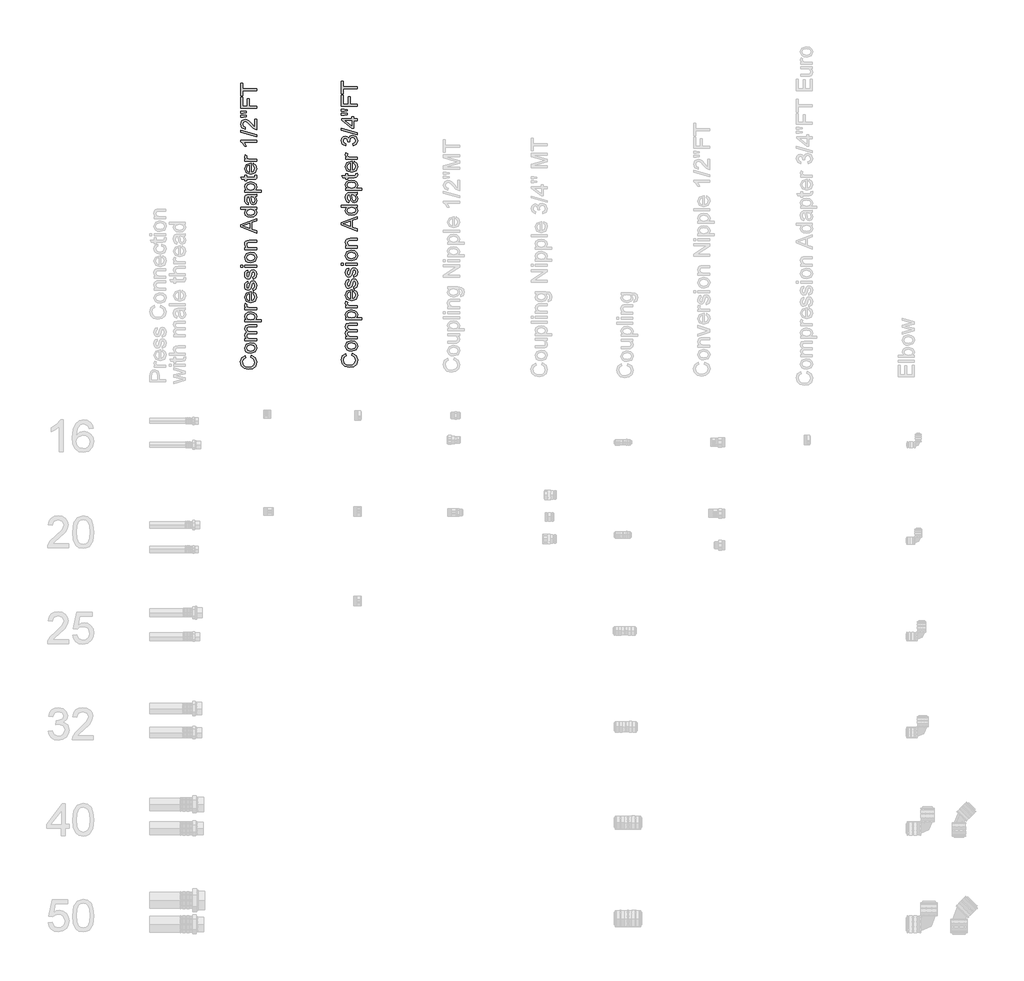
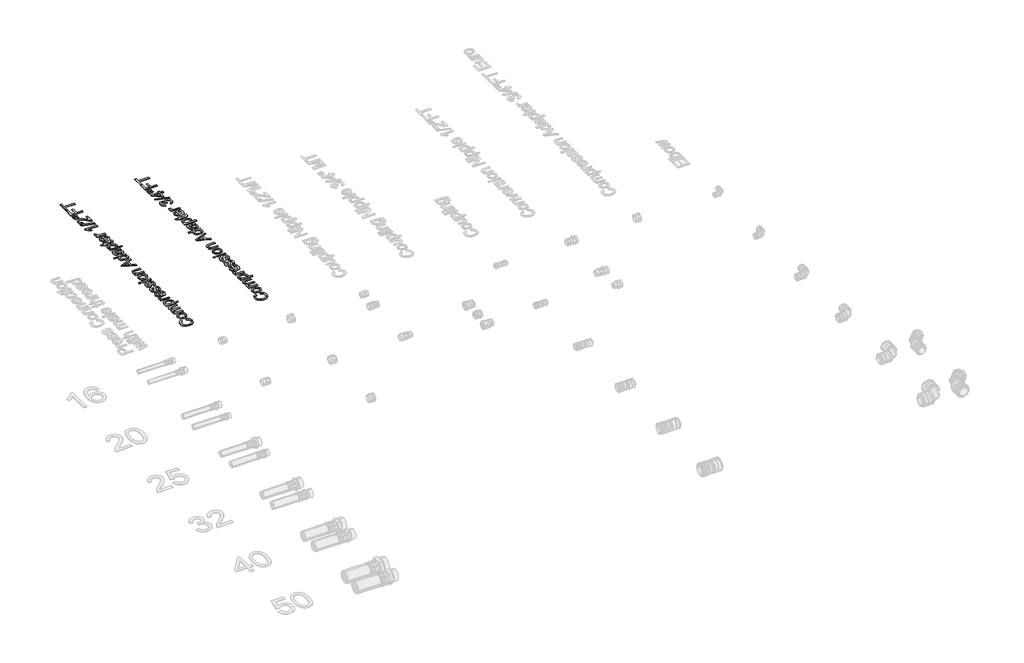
# One storey, part 23 of 26: 2 proxies.
"""IFC4 building model written with IfcOpenShell, lengths in millimetres."""

from ifc_helpers import new_model, si_unit, origin, origin_with_axes, place, context, project, spatial, polyline, outline, extrude, element, save

model = new_model("IFC4")

# Units and contexts
model_context = context("Model", 3, world=origin())
ifc_project = project(units=[si_unit("LENGTHUNIT", "METRE", prefix="MILLI")], contexts=[model_context])

# Site, building, storey
site = spatial("IfcSite", under=ifc_project)
building = spatial("IfcBuilding", under=site)
storey = spatial("IfcBuildingStorey", under=building, Name="Superpipe UFH", Elevation=0.0)

# Proxies
placement = place(None, origin())
element("IfcBuildingElementProxy", 1, Name="50mm Arial", ObjectType="50mm Arial", at=placement, inside=storey, context=model_context, shape_type="SweptSolid", body=[
    extrude(outline(polyline([(26032.5798356, 32469.7288076), (26034.1985164, 32476.007327), (26046.8597884, 32468.563848), (26051.21919, 32455.418198), (26047.9205148, 32442.3522558), (26038.3678457, 32434.6880476), (26024.9401528, 32432.0576913), (26011.2917308, 32435.0314041), (26002.4441688, 32443.4865586), (25999.4214051, 32455.5530881), (26003.333217, 32468.128521), (26014.3451514, 32475.2225121), (26015.8412048, 32468.9439927), (26008.1218143, 32463.7936448), (26005.6999245, 32455.3078334), (26008.3854631, 32445.4853842), (26015.5959502, 32439.9364974), (26024.9278901, 32438.3362107), (26035.7436208, 32440.230803), (26042.6536709, 32446.1291776), (26044.9406706, 32454.7927986), (26041.8259364, 32464.4006501), (26032.5798356, 32469.7288076)])), origin_with_axes(), (0.0, 0.0, 1.0), 2.0),
    extrude(outline(polyline([(26031.9912244, 32482.2858464), (26023.0976772, 32483.6439441), (26016.846749, 32487.7182372), (26012.7632588, 32498.7792225), (26017.7357971, 32510.6434169), (26031.4761896, 32515.2480732), (26042.6475395, 32513.2124595), (26048.9689785, 32507.283428), (26051.21919, 32498.7792225), (26046.2650458, 32486.8414518), (26031.9912244, 32482.2858464)]), holes=[polyline([(26031.9789617, 32488.5643658), (26041.7094405, 32491.4706335), (26044.9406706, 32498.7792225), (26041.6910464, 32506.063286), (26031.782758, 32508.9695538), (26022.2730084, 32506.0448919), (26019.0417782, 32498.7792225), (26022.2607456, 32491.4706335), (26031.9789617, 32488.5643658)])]), origin_with_axes(), (0.0, 0.0, 1.0), 2.0),
    extrude(outline(polyline([(26050.4343751, 32522.3114075), (26013.5480737, 32522.3114075), (26013.5480737, 32528.5899269), (26019.6181266, 32528.5899269), (26014.6455883, 32532.9064089), (26012.7632588, 32539.0500383), (26014.6823765, 32545.3408204), (26020.059585, 32548.7989111), (26014.5873404, 32553.697873), (26012.7632588, 32559.8844219), (26015.7982853, 32568.0943218), (26025.1486193, 32570.9699327), (26050.4343751, 32570.9699327), (26050.4343751, 32564.6914133), (26027.8464206, 32564.6914133), (26022.6041022, 32564.1089335), (26020.0227968, 32561.9997434), (26019.0417782, 32558.4128939), (26021.5556385, 32552.2386078), (26029.6122542, 32549.7799298), (26050.4343751, 32549.7799298), (26050.4343751, 32543.5014104), (26027.1474448, 32543.5014104), (26021.0651292, 32542.0482765), (26019.0417782, 32537.2842047), (26020.3906788, 32532.6366288), (26024.3392789, 32529.54642), (26031.8318089, 32528.5899269), (26050.4343751, 32528.5899269), (26050.4343751, 32522.3114075)])), origin_with_axes(), (0.0, 0.0, 1.0), 2.0),
    extrude(outline(polyline([(26064.5610437, 32580.3877118), (26013.5480737, 32580.3877118), (26013.5480737, 32586.6662312), (26019.7039658, 32586.6662312), (26014.4984355, 32591.0072387), (26012.7632588, 32596.8688252), (26015.19128, 32604.827339), (26022.0338851, 32610.0267379), (26031.7091816, 32611.7803087), (26041.8811187, 32609.7998773), (26048.809563, 32604.0486554), (26051.21919, 32596.1085357), (26049.6066406, 32590.6454881), (26045.5292818, 32586.6662312), (26064.5610437, 32586.6662312), (26064.5610437, 32580.3877118)]), holes=[polyline([(26032.28553, 32586.6662312), (26041.8504619, 32589.3824266), (26044.9406706, 32595.9736456), (26041.7400973, 32602.6997548), (26031.8195462, 32605.5017893), (26022.2300888, 32602.7671998), (26019.0417782, 32596.231163), (26022.4324239, 32589.5663676), (26032.28553, 32586.6662312)])]), origin_with_axes(), (0.0, 0.0, 1.0), 2.0),
    extrude(outline(polyline([(26050.4343751, 32618.843643), (26013.5480737, 32618.843643), (26013.5480737, 32624.3373475), (26019.00499, 32624.3373475), (26013.9772694, 32628.2368966), (26012.7632588, 32632.1609712), (26014.7007706, 32638.4640161), (26020.3293652, 32636.3670887), (26019.0417782, 32631.9525048), (26020.2803142, 32628.4024435), (26023.7138795, 32626.1399692), (26031.046994, 32625.1221624), (26050.4343751, 32625.1221624), (26050.4343751, 32618.843643)])), origin_with_axes(), (0.0, 0.0, 1.0), 2.0),
    extrude(outline(polyline([(26039.4469662, 32668.2134068), (26040.2317811, 32674.3692988), (26048.3374477, 32668.6119456), (26051.21919, 32657.8881854), (26046.2466517, 32644.8529001), (26032.2977927, 32640.0336459), (26017.8890813, 32644.901951), (26012.7632588, 32657.5325662), (26017.8768185, 32669.8014307), (26032.2610045, 32674.5655025), (26033.9532617, 32674.5287143), (26033.9532617, 32646.3121653), (26042.1079793, 32649.9235402), (26044.9406706, 32658.0108128), (26043.6285582, 32664.1667048), (26039.4469662, 32668.2134068)]), holes=[polyline([(26027.6747423, 32646.3121653), (26027.6747423, 32668.2869832), (26021.9848341, 32665.7731229), (26019.0417782, 32657.5080407), (26021.3900916, 32649.7763874), (26027.6747423, 32646.3121653)])]), origin_with_axes(), (0.0, 0.0, 1.0), 2.0),
    extrude(outline(polyline([(26039.4469662, 32678.4895772), (26038.6621513, 32684.7680965), (26043.3219899, 32687.6743643), (26044.9406706, 32694.3330284), (26043.4568799, 32700.7341751), (26039.9742637, 32702.8188398), (26037.1538351, 32700.7219124), (26035.363476, 32694.259452), (26032.2916614, 32684.8048847), (26028.7048119, 32680.678475), (26023.6403031, 32679.2743921), (26018.9620704, 32680.4025635), (26015.3874837, 32683.4805096), (26013.5296796, 32687.4720292), (26012.7632588, 32692.8737632), (26013.9956635, 32700.5134459), (26017.3311269, 32705.3694883), (26022.9658528, 32707.5277293), (26023.7506677, 32701.2492099), (26020.2864456, 32698.8886338), (26019.0417782, 32693.3642725), (26020.2312633, 32687.3555332), (26023.002641, 32685.5529115), (26024.8297882, 32686.3009382), (26026.2154771, 32688.6431202), (26027.552115, 32694.0509856), (26030.5074337, 32703.2664295), (26033.8551599, 32707.5461234), (26039.3120761, 32709.0973592), (26045.3208154, 32707.2763433), (26049.680217, 32702.0217621), (26051.21919, 32694.2471893), (26048.2516086, 32683.2965686), (26039.4469662, 32678.4895772)])), origin_with_axes(), (0.0, 0.0, 1.0), 2.0),
    extrude(outline(polyline([(26039.4469662, 32713.8062487), (26038.6621513, 32720.0847681), (26043.3219899, 32722.9910358), (26044.9406706, 32729.6497), (26043.4568799, 32736.0508467), (26039.9742637, 32738.1355113), (26037.1538351, 32736.0385839), (26035.363476, 32729.5761236), (26032.2916614, 32720.1215563), (26028.7048119, 32715.9951466), (26023.6403031, 32714.5910636), (26018.9620704, 32715.7192351), (26015.3874837, 32718.7971811), (26013.5296796, 32722.7887007), (26012.7632588, 32728.1904347), (26013.9956635, 32735.8301175), (26017.3311269, 32740.6861598), (26022.9658528, 32742.8444009), (26023.7506677, 32736.5658815), (26020.2864456, 32734.2053053), (26019.0417782, 32728.680944), (26020.2312633, 32722.6722048), (26023.002641, 32720.869583), (26024.8297882, 32721.6176097), (26026.2154771, 32723.9597918), (26027.552115, 32729.3676571), (26030.5074337, 32738.5831011), (26033.8551599, 32742.862795), (26039.3120761, 32744.4140307), (26045.3208154, 32742.5930148), (26049.680217, 32737.3384337), (26051.21919, 32729.5638608), (26048.2516086, 32718.6132401), (26039.4469662, 32713.8062487)])), origin_with_axes(), (0.0, 0.0, 1.0), 2.0),
    extrude(outline(polyline([(26006.4847394, 32751.477365), (26000.20622, 32751.477365), (26000.20622, 32757.7558844), (26006.4847394, 32757.7558844), (26006.4847394, 32751.477365)])), origin_with_axes(), (0.0, 0.0, 1.0), 2.0),
    extrude(outline(polyline([(26050.4343751, 32751.477365), (26013.5480737, 32751.477365), (26013.5480737, 32757.7558844), (26050.4343751, 32757.7558844), (26050.4343751, 32751.477365)])), origin_with_axes(), (0.0, 0.0, 1.0), 2.0),
    extrude(outline(polyline([(26031.9912244, 32765.6040336), (26023.0976772, 32766.9621313), (26016.846749, 32771.0364244), (26012.7632588, 32782.0974097), (26017.7357971, 32793.9616041), (26031.4761896, 32798.5662604), (26042.6475395, 32796.5306467), (26048.9689785, 32790.6016152), (26051.21919, 32782.0974097), (26046.2650458, 32770.159639), (26031.9912244, 32765.6040336)]), holes=[polyline([(26031.9789617, 32771.882553), (26041.7094405, 32774.7888208), (26044.9406706, 32782.0974097), (26041.6910464, 32789.3814732), (26031.782758, 32792.287741), (26022.2730084, 32789.3630791), (26019.0417782, 32782.0974097), (26022.2607456, 32774.7888208), (26031.9789617, 32771.882553)])]), origin_with_axes(), (0.0, 0.0, 1.0), 2.0),
    extrude(outline(polyline([(26050.4343751, 32805.6295947), (26013.5480737, 32805.6295947), (26013.5480737, 32811.9081141), (26018.6984217, 32811.9081141), (26014.2470495, 32816.7089741), (26012.7632588, 32823.263405), (26013.9588753, 32829.1924365), (26017.098135, 32833.2391384), (26021.715054, 32835.121468), (26027.7851069, 32835.4525618), (26050.4343751, 32835.4525618), (26050.4343751, 32829.1740424), (26028.6312355, 32829.1740424), (26023.0762174, 32828.4505411), (26020.1392928, 32825.8937613), (26019.0417782, 32821.5834106), (26021.5065876, 32814.7714623), (26030.863053, 32811.9081141), (26050.4343751, 32811.9081141), (26050.4343751, 32805.6295947)])), origin_with_axes(), (0.0, 0.0, 1.0), 2.0),
    extrude(outline(polyline([(26050.4343751, 32858.6413902), (26000.20622, 32878.6909589), (26000.20622, 32884.0375106), (26050.4343751, 32904.0870793), (26050.4343751, 32897.4529407), (26034.7380766, 32891.7017188), (26034.7380766, 32871.014488), (26050.4343751, 32865.2755288), (26050.4343751, 32858.6413902)]), holes=[polyline([(26028.4595573, 32873.3198818), (26028.4595573, 32889.4085877), (26016.110985, 32884.8836392), (26006.4847394, 32881.3642348), (26015.0318644, 32878.2372378), (26028.4595573, 32873.3198818)])]), origin_with_axes(), (0.0, 0.0, 1.0), 2.0),
    extrude(outline(polyline([(26050.4343751, 32932.7696122), (26044.511475, 32932.7696122), (26049.5422613, 32928.6156114), (26051.21919, 32922.8735866), (26048.7911689, 32915.0990137), (26042.0160088, 32909.6053093), (26032.0280126, 32907.6555347), (26022.0338851, 32909.4520251), (26015.1544918, 32914.835365), (26012.7632588, 32922.8490611), (26014.4739101, 32928.6370711), (26018.9191509, 32932.7696122), (26000.20622, 32932.7696122), (26000.20622, 32939.0481316), (26050.4343751, 32939.0481316), (26050.4343751, 32932.7696122)]), holes=[polyline([(26032.0034872, 32913.9340541), (26041.7217032, 32916.7667454), (26044.9406706, 32923.449935), (26041.868856, 32930.0534168), (26032.4817337, 32932.7696122), (26022.2914025, 32930.0043659), (26019.0417782, 32923.1924176), (26022.1626438, 32916.5828044), (26032.0034872, 32913.9340541)])]), origin_with_axes(), (0.0, 0.0, 1.0), 2.0),
    extrude(outline(polyline([(26045.7254856, 32972.0103584), (26049.980654, 32965.9219114), (26051.21919, 32959.1958022), (26048.2393459, 32950.0784601), (26040.6241886, 32946.8962808), (26035.6577816, 32948.0980287), (26032.0525381, 32951.2556825), (26029.9923989, 32955.6518723), (26029.0481685, 32961.0842631), (26026.8899274, 32971.9735702), (26020.8566627, 32970.281313), (26019.0417782, 32963.340606), (26020.2496574, 32956.9885102), (26024.5354826, 32953.9596152), (26023.7506677, 32947.6810958), (26017.6193011, 32950.3972912), (26014.0263203, 32955.8664702), (26012.7632588, 32964.1499464), (26013.8791675, 32971.7589724), (26016.6812021, 32976.0570603), (26020.9425018, 32977.9823094), (26026.4362063, 32978.2888778), (26034.2475673, 32978.2888778), (26045.1552685, 32978.6077088), (26050.4343751, 32979.8585076), (26050.4343751, 32973.5799882), (26045.7254856, 32972.0103584)]), holes=[polyline([(26033.1684468, 32972.0103584), (26035.0936959, 32961.8813408), (26036.1115028, 32956.4796068), (26037.7669717, 32954.0331916), (26040.1827302, 32953.1748002), (26043.5795073, 32955.044867), (26044.9406706, 32960.5324401), (26043.4384858, 32966.8845359), (26039.8025854, 32970.9802888), (26034.9465431, 32971.9735702), (26033.1684468, 32972.0103584)])]), origin_with_axes(), (0.0, 0.0, 1.0), 2.0),
    extrude(outline(polyline([(26064.5610437, 32986.9218419), (26013.5480737, 32986.9218419), (26013.5480737, 32993.2003613), (26019.7039658, 32993.2003613), (26014.4984355, 32997.5413688), (26012.7632588, 33003.4029553), (26015.19128, 33011.3614691), (26022.0338851, 33016.560868), (26031.7091816, 33018.3144388), (26041.8811187, 33016.3340074), (26048.809563, 33010.5827856), (26051.21919, 33002.6426658), (26049.6066406, 32997.1796182), (26045.5292818, 32993.2003613), (26064.5610437, 32993.2003613), (26064.5610437, 32986.9218419)]), holes=[polyline([(26032.28553, 32993.2003613), (26041.8504619, 32995.9165567), (26044.9406706, 33002.5077758), (26041.7400973, 33009.2338849), (26031.8195462, 33012.0359195), (26022.2300888, 33009.30133), (26019.0417782, 33002.7652932), (26022.4324239, 32996.1004977), (26032.28553, 32993.2003613)])]), origin_with_axes(), (0.0, 0.0, 1.0), 2.0),
    extrude(outline(polyline([(26045.198188, 33038.7196268), (26050.6183161, 33039.5044418), (26051.21919, 33034.807815), (26050.1768577, 33029.5471024), (26047.4422682, 33026.9228775), (26040.3176202, 33026.1625881), (26019.8265931, 33026.1625881), (26019.8265931, 33021.4536985), (26013.5480737, 33021.4536985), (26013.5480737, 33026.1625881), (26004.5840158, 33026.1625881), (26000.8929331, 33032.4411075), (26013.5480737, 33032.4411075), (26013.5480737, 33038.7196268), (26019.8265931, 33038.7196268), (26019.8265931, 33032.4411075), (26040.1336792, 33032.4411075), (26043.3710408, 33032.7722013), (26044.9406706, 33035.9850373), (26045.198188, 33038.7196268)])), origin_with_axes(), (0.0, 0.0, 1.0), 2.0),
    extrude(outline(polyline([(26039.4469662, 33070.8234623), (26040.2317811, 33076.9793543), (26048.3374477, 33071.2220011), (26051.21919, 33060.498241), (26046.2466517, 33047.4629556), (26032.2977927, 33042.6437015), (26017.8890813, 33047.5120065), (26012.7632588, 33060.1426217), (26017.8768185, 33072.4114862), (26032.2610045, 33077.1755581), (26033.9532617, 33077.1387699), (26033.9532617, 33048.9222208), (26042.1079793, 33052.5335958), (26044.9406706, 33060.6208683), (26043.6285582, 33066.7767603), (26039.4469662, 33070.8234623)]), holes=[polyline([(26027.6747423, 33048.9222208), (26027.6747423, 33070.8970387), (26021.9848341, 33068.3831784), (26019.0417782, 33060.1180962), (26021.3900916, 33052.386443), (26027.6747423, 33048.9222208)])]), origin_with_axes(), (0.0, 0.0, 1.0), 2.0),
    extrude(outline(polyline([(26050.4343751, 33083.4540775), (26013.5480737, 33083.4540775), (26013.5480737, 33088.9477819), (26019.00499, 33088.9477819), (26013.9772694, 33092.8473311), (26012.7632588, 33096.7714057), (26014.7007706, 33103.0744505), (26020.3293652, 33100.9775232), (26019.0417782, 33096.5629392), (26020.2803142, 33093.012878), (26023.7138795, 33090.7504037), (26031.046994, 33089.7325968), (26050.4343751, 33089.7325968), (26050.4343751, 33083.4540775)])), origin_with_axes(), (0.0, 0.0, 1.0), 2.0),
    extrude(outline(polyline([(26050.4343751, 33148.5937161), (26050.4343751, 33142.3151967), (26011.2917308, 33142.3151967), (26015.5285051, 33136.3677711), (26018.6984217, 33129.7581579), (26012.7632588, 33129.7581579), (26006.8894096, 33138.9613392), (26000.20622, 33144.5470141), (26000.20622, 33148.5937161), (26050.4343751, 33148.5937161)])), origin_with_axes(), (0.0, 0.0, 1.0), 2.0),
    extrude(outline(polyline([(26050.4343751, 33160.3659399), (26000.20622, 33174.4926085), (26000.20622, 33180.1579913), (26050.4343751, 33166.0313226), (26050.4343751, 33160.3659399)])), origin_with_axes(), (0.0, 0.0, 1.0), 2.0),
    extrude(outline(polyline([(26044.1558557, 33215.3029845), (26050.4343751, 33215.3029845), (26050.4343751, 33182.3407578), (26046.1056303, 33183.0152081), (26039.4408348, 33186.8289181), (26032.1629027, 33194.6893301), (26021.7027913, 33205.5295862), (26014.590406, 33208.2396502), (26008.8330528, 33205.6828704), (26006.4847394, 33199.0058121), (26008.7778705, 33192.0467111), (26015.1177036, 33189.4040921), (26014.3328886, 33183.1255727), (26003.8237263, 33187.9386955), (26000.20622, 33199.1407022), (26004.2283965, 33210.3794972), (26014.2102613, 33214.5181696), (26020.1638183, 33213.4022609), (26026.3197103, 33209.6927841), (26034.9220176, 33200.6980693), (26040.9614137, 33193.4753195), (26044.1558557, 33190.6426281), (26044.1558557, 33215.3029845)])), origin_with_axes(), (0.0, 0.0, 1.0), 2.0),
    extrude(outline(polyline([(26018.2569633, 33223.1143456), (26008.5571413, 33221.5815039), (26000.20622, 33221.5815039), (26000.20622, 33227.8600233), (26008.5571413, 33227.8600233), (26018.2569633, 33226.4865972), (26018.2569633, 33223.1143456)])), origin_with_axes(), (0.0, 0.0, 1.0), 2.0),
    extrude(outline(polyline([(26018.2569633, 33235.6345961), (26008.5571413, 33234.1385427), (26000.20622, 33234.1385427), (26000.20622, 33240.4170621), (26008.5571413, 33240.4170621), (26018.2569633, 33238.9455341), (26018.2569633, 33235.6345961)])), origin_with_axes(), (0.0, 0.0, 1.0), 2.0),
    extrude(outline(polyline([(26050.4343751, 33249.0500262), (26000.20622, 33249.0500262), (26000.20622, 33282.7970679), (26006.4847394, 33282.7970679), (26006.4847394, 33255.3285456), (26021.396223, 33255.3285456), (26021.396223, 33278.8729933), (26027.6747423, 33278.8729933), (26027.6747423, 33255.3285456), (26050.4343751, 33255.3285456), (26050.4343751, 33249.0500262)])), origin_with_axes(), (0.0, 0.0, 1.0), 2.0),
    extrude(outline(polyline([(26050.4343751, 33303.9870708), (26006.4847394, 33303.9870708), (26006.4847394, 33287.5059574), (26000.20622, 33287.5059574), (26000.20622, 33326.7467036), (26006.4847394, 33326.7467036), (26006.4847394, 33310.2655902), (26050.4343751, 33310.2655902), (26050.4343751, 33303.9870708)])), origin_with_axes(), (0.0, 0.0, 1.0), 2.0),
])
element("IfcBuildingElementProxy", 2, Name="50mm Arial", ObjectType="50mm Arial", at=placement, inside=storey, context=model_context, shape_type="SweptSolid", body=[
    extrude(outline(polyline([(26347.9582737, 32475.8801829), (26349.5769545, 32482.1587022), (26362.2382265, 32474.7152232), (26366.5976281, 32461.5695732), (26363.2989529, 32448.5036311), (26353.7462837, 32440.8394228), (26340.3185909, 32438.2090666), (26326.6701689, 32441.1827793), (26317.8226069, 32449.6379339), (26314.7998432, 32461.7044633), (26318.7116551, 32474.2798962), (26329.7235894, 32481.3738873), (26331.2196429, 32475.0953679), (26323.5002524, 32469.94502), (26321.0783626, 32461.4592086), (26323.7639011, 32451.6367594), (26330.9743882, 32446.0878726), (26340.3063282, 32444.4875859), (26351.1220588, 32446.3821782), (26358.032109, 32452.2805529), (26360.3191087, 32460.9441739), (26357.2043745, 32470.5520253), (26347.9582737, 32475.8801829)])), origin_with_axes(), (0.0, 0.0, 1.0), 2.0),
    extrude(outline(polyline([(26347.3696625, 32488.4372216), (26338.4761152, 32489.7953193), (26332.225187, 32493.8696124), (26328.1416969, 32504.9305977), (26333.1142352, 32516.7947921), (26346.8546277, 32521.3994484), (26358.0259776, 32519.3638347), (26364.3474166, 32513.4348032), (26366.5976281, 32504.9305977), (26361.6434839, 32492.992827), (26347.3696625, 32488.4372216)]), holes=[polyline([(26347.3573997, 32494.715741), (26357.0878785, 32497.6220088), (26360.3191087, 32504.9305977), (26357.0694844, 32512.2146612), (26347.161196, 32515.120929), (26337.6514464, 32512.1962671), (26334.4202162, 32504.9305977), (26337.6391837, 32497.6220088), (26347.3573997, 32494.715741)])]), origin_with_axes(), (0.0, 0.0, 1.0), 2.0),
    extrude(outline(polyline([(26365.8128132, 32528.4627827), (26328.9265118, 32528.4627827), (26328.9265118, 32534.7413021), (26334.9965647, 32534.7413021), (26330.0240264, 32539.0577842), (26328.1416969, 32545.2014135), (26330.0608146, 32551.4921956), (26335.4380231, 32554.9502864), (26329.9657784, 32559.8492483), (26328.1416969, 32566.0357971), (26331.1767233, 32574.245697), (26340.5270574, 32577.1213079), (26365.8128132, 32577.1213079), (26365.8128132, 32570.8427885), (26343.2248587, 32570.8427885), (26337.9825402, 32570.2603087), (26335.4012349, 32568.1511186), (26334.4202162, 32564.5642692), (26336.9340766, 32558.389983), (26344.9906922, 32555.931305), (26365.8128132, 32555.931305), (26365.8128132, 32549.6527856), (26342.5258829, 32549.6527856), (26336.4435672, 32548.1996517), (26334.4202162, 32543.4355799), (26335.7691169, 32538.788004), (26339.717717, 32535.6977953), (26347.2102469, 32534.7413021), (26365.8128132, 32534.7413021), (26365.8128132, 32528.4627827)])), origin_with_axes(), (0.0, 0.0, 1.0), 2.0),
    extrude(outline(polyline([(26379.9394818, 32586.539087), (26328.9265118, 32586.539087), (26328.9265118, 32592.8176064), (26335.0824038, 32592.8176064), (26329.8768736, 32597.1586139), (26328.1416969, 32603.0202004), (26330.569718, 32610.9787142), (26337.4123231, 32616.1781131), (26347.0876196, 32617.9316839), (26357.2595568, 32615.9512525), (26364.188001, 32610.2000307), (26366.5976281, 32602.2599109), (26364.9850787, 32596.7968633), (26360.9077199, 32592.8176064), (26379.9394818, 32592.8176064), (26379.9394818, 32586.539087)]), holes=[polyline([(26347.6639681, 32592.8176064), (26357.2289, 32595.5338018), (26360.3191087, 32602.1250209), (26357.1185354, 32608.85113), (26347.1979842, 32611.6531645), (26337.6085269, 32608.918575), (26334.4202162, 32602.3825383), (26337.810862, 32595.7177428), (26347.6639681, 32592.8176064)])]), origin_with_axes(), (0.0, 0.0, 1.0), 2.0),
    extrude(outline(polyline([(26365.8128132, 32624.9950182), (26328.9265118, 32624.9950182), (26328.9265118, 32630.4887227), (26334.3834281, 32630.4887227), (26329.3557074, 32634.3882718), (26328.1416969, 32638.3123465), (26330.0792087, 32644.6153913), (26335.7078032, 32642.5184639), (26334.4202162, 32638.10388), (26335.6587523, 32634.5538187), (26339.0923176, 32632.2913445), (26346.425432, 32631.2735376), (26365.8128132, 32631.2735376), (26365.8128132, 32624.9950182)])), origin_with_axes(), (0.0, 0.0, 1.0), 2.0),
    extrude(outline(polyline([(26354.8254042, 32674.364782), (26355.6102192, 32680.520674), (26363.7158858, 32674.7633208), (26366.5976281, 32664.0395607), (26361.6250898, 32651.0042753), (26347.6762308, 32646.1850212), (26333.2675193, 32651.0533262), (26328.1416969, 32663.6839414), (26333.2552566, 32675.9528059), (26347.6394426, 32680.7168778), (26349.3316998, 32680.6800896), (26349.3316998, 32652.4635405), (26357.4864173, 32656.0749155), (26360.3191087, 32664.162188), (26359.0069963, 32670.31808), (26354.8254042, 32674.364782)]), holes=[polyline([(26343.0531804, 32652.4635405), (26343.0531804, 32674.4383584), (26337.3632722, 32671.9244981), (26334.4202162, 32663.6594159), (26336.7685297, 32655.9277627), (26343.0531804, 32652.4635405)])]), origin_with_axes(), (0.0, 0.0, 1.0), 2.0),
    extrude(outline(polyline([(26354.8254042, 32684.6409524), (26354.0405893, 32690.9194718), (26358.7004279, 32693.8257395), (26360.3191087, 32700.4844036), (26358.835318, 32706.8855504), (26355.3527018, 32708.970215), (26352.5322731, 32706.8732876), (26350.7419141, 32700.4108272), (26347.6700994, 32690.95626), (26344.08325, 32686.8298503), (26339.0187412, 32685.4257673), (26334.3405085, 32686.5539388), (26330.7659218, 32689.6318848), (26328.9081177, 32693.6234044), (26328.1416969, 32699.0251384), (26329.3741015, 32706.6648212), (26332.709565, 32711.5208635), (26338.3442909, 32713.6791045), (26339.1291058, 32707.4005852), (26335.6648837, 32705.040009), (26334.4202162, 32699.5156477), (26335.6097014, 32693.5069085), (26338.3810791, 32691.7042867), (26340.2082263, 32692.4523134), (26341.5939152, 32694.7944955), (26342.9305531, 32700.2023608), (26345.8858718, 32709.4178048), (26349.2335979, 32713.6974986), (26354.6905142, 32715.2487344), (26360.6992534, 32713.4277185), (26365.0586551, 32708.1731373), (26366.5976281, 32700.3985645), (26363.6300467, 32689.4479438), (26354.8254042, 32684.6409524)])), origin_with_axes(), (0.0, 0.0, 1.0), 2.0),
    extrude(outline(polyline([(26354.8254042, 32719.9576239), (26354.0405893, 32726.2361433), (26358.7004279, 32729.1424111), (26360.3191087, 32735.8010752), (26358.835318, 32742.2022219), (26355.3527018, 32744.2868865), (26352.5322731, 32742.1899592), (26350.7419141, 32735.7274988), (26347.6700994, 32726.2729315), (26344.08325, 32722.1465218), (26339.0187412, 32720.7424388), (26334.3405085, 32721.8706103), (26330.7659218, 32724.9485563), (26328.9081177, 32728.940076), (26328.1416969, 32734.3418099), (26329.3741015, 32741.9814927), (26332.709565, 32746.837535), (26338.3442909, 32748.9957761), (26339.1291058, 32742.7172567), (26335.6648837, 32740.3566806), (26334.4202162, 32734.8323193), (26335.6097014, 32728.82358), (26338.3810791, 32727.0209582), (26340.2082263, 32727.768985), (26341.5939152, 32730.111167), (26342.9305531, 32735.5190323), (26345.8858718, 32744.7344763), (26349.2335979, 32749.0141702), (26354.6905142, 32750.5654059), (26360.6992534, 32748.74439), (26365.0586551, 32743.4898089), (26366.5976281, 32735.7152361), (26363.6300467, 32724.7646153), (26354.8254042, 32719.9576239)])), origin_with_axes(), (0.0, 0.0, 1.0), 2.0),
    extrude(outline(polyline([(26321.8631775, 32757.6287402), (26315.5846581, 32757.6287402), (26315.5846581, 32763.9072596), (26321.8631775, 32763.9072596), (26321.8631775, 32757.6287402)])), origin_with_axes(), (0.0, 0.0, 1.0), 2.0),
    extrude(outline(polyline([(26365.8128132, 32757.6287402), (26328.9265118, 32757.6287402), (26328.9265118, 32763.9072596), (26365.8128132, 32763.9072596), (26365.8128132, 32757.6287402)])), origin_with_axes(), (0.0, 0.0, 1.0), 2.0),
    extrude(outline(polyline([(26347.3696625, 32771.7554088), (26338.4761152, 32773.1135065), (26332.225187, 32777.1877996), (26328.1416969, 32788.248785), (26333.1142352, 32800.1129793), (26346.8546277, 32804.7176356), (26358.0259776, 32802.6820219), (26364.3474166, 32796.7529904), (26366.5976281, 32788.248785), (26361.6434839, 32776.3110142), (26347.3696625, 32771.7554088)]), holes=[polyline([(26347.3573997, 32778.0339282), (26357.0878785, 32780.940196), (26360.3191087, 32788.248785), (26357.0694844, 32795.5328485), (26347.161196, 32798.4391162), (26337.6514464, 32795.5144544), (26334.4202162, 32788.248785), (26337.6391837, 32780.940196), (26347.3573997, 32778.0339282)])]), origin_with_axes(), (0.0, 0.0, 1.0), 2.0),
    extrude(outline(polyline([(26365.8128132, 32811.7809699), (26328.9265118, 32811.7809699), (26328.9265118, 32818.0594893), (26334.0768597, 32818.0594893), (26329.6254876, 32822.8603493), (26328.1416969, 32829.4147802), (26329.3373133, 32835.3438117), (26332.476573, 32839.3905137), (26337.0934921, 32841.2728432), (26343.163545, 32841.603937), (26365.8128132, 32841.603937), (26365.8128132, 32835.3254176), (26344.0096736, 32835.3254176), (26338.4546555, 32834.6019164), (26335.5177309, 32832.0451365), (26334.4202162, 32827.7347858), (26336.8850256, 32820.9228375), (26346.241491, 32818.0594893), (26365.8128132, 32818.0594893), (26365.8128132, 32811.7809699)])), origin_with_axes(), (0.0, 0.0, 1.0), 2.0),
    extrude(outline(polyline([(26365.8128132, 32864.7927654), (26315.5846581, 32884.8423342), (26315.5846581, 32890.1888858), (26365.8128132, 32910.2384546), (26365.8128132, 32903.6043159), (26350.1165147, 32897.8530941), (26350.1165147, 32877.1658632), (26365.8128132, 32871.4269041), (26365.8128132, 32864.7927654)]), holes=[polyline([(26343.8379953, 32879.471257), (26343.8379953, 32895.559963), (26331.489423, 32891.0350144), (26321.8631775, 32887.51561), (26330.4103025, 32884.388613), (26343.8379953, 32879.471257)])]), origin_with_axes(), (0.0, 0.0, 1.0), 2.0),
    extrude(outline(polyline([(26365.8128132, 32938.9209875), (26359.889913, 32938.9209875), (26364.9206993, 32934.7669866), (26366.5976281, 32929.0249618), (26364.1696069, 32921.250389), (26357.3944468, 32915.7566845), (26347.4064507, 32913.8069099), (26337.4123231, 32915.6034003), (26330.5329298, 32920.9867402), (26328.1416969, 32929.0004363), (26329.8523481, 32934.7884464), (26334.2975889, 32938.9209875), (26315.5846581, 32938.9209875), (26315.5846581, 32945.1995068), (26365.8128132, 32945.1995068), (26365.8128132, 32938.9209875)]), holes=[polyline([(26347.3819252, 32920.0854293), (26357.1001413, 32922.9181207), (26360.3191087, 32929.6013102), (26357.2472941, 32936.2047921), (26347.8601718, 32938.9209875), (26337.6698405, 32936.1557411), (26334.4202162, 32929.3437928), (26337.5410818, 32922.7341797), (26347.3819252, 32920.0854293)])]), origin_with_axes(), (0.0, 0.0, 1.0), 2.0),
    extrude(outline(polyline([(26361.1039236, 32978.1617336), (26365.359092, 32972.0732866), (26366.5976281, 32965.3471774), (26363.6177839, 32956.2298353), (26356.0026266, 32953.0476561), (26351.0362197, 32954.2494039), (26347.4309761, 32957.4070577), (26345.370837, 32961.8032476), (26344.4266065, 32967.2356383), (26342.2683655, 32978.1249454), (26336.2351008, 32976.4326882), (26334.4202162, 32969.4919813), (26335.6280955, 32963.1398855), (26339.9139207, 32960.1109904), (26339.1291058, 32953.832471), (26332.9977392, 32956.5486664), (26329.4047584, 32962.0178454), (26328.1416969, 32970.3013216), (26329.2576056, 32977.9103476), (26332.0596401, 32982.2084356), (26336.3209399, 32984.1336847), (26341.8146444, 32984.440253), (26349.6260054, 32984.440253), (26360.5337065, 32984.7590841), (26365.8128132, 32986.0098828), (26365.8128132, 32979.7313635), (26361.1039236, 32978.1617336)]), holes=[polyline([(26348.5468849, 32978.1617336), (26350.472134, 32968.032716), (26351.4899408, 32962.630982), (26353.1454098, 32960.1845668), (26355.5611682, 32959.3261755), (26358.9579453, 32961.1962423), (26360.3191087, 32966.6838154), (26358.8169239, 32973.0359111), (26355.1810235, 32977.131664), (26350.3249812, 32978.1249454), (26348.5468849, 32978.1617336)])]), origin_with_axes(), (0.0, 0.0, 1.0), 2.0),
    extrude(outline(polyline([(26379.9394818, 32993.0732171), (26328.9265118, 32993.0732171), (26328.9265118, 32999.3517365), (26335.0824038, 32999.3517365), (26329.8768736, 33003.6927441), (26328.1416969, 33009.5543305), (26330.569718, 33017.5128444), (26337.4123231, 33022.7122432), (26347.0876196, 33024.4658141), (26357.2595568, 33022.4853827), (26364.188001, 33016.7341608), (26366.5976281, 33008.7940411), (26364.9850787, 33003.3309934), (26360.9077199, 32999.3517365), (26379.9394818, 32999.3517365), (26379.9394818, 32993.0732171)]), holes=[polyline([(26347.6639681, 32999.3517365), (26357.2289, 33002.0679319), (26360.3191087, 33008.659151), (26357.1185354, 33015.3852602), (26347.1979842, 33018.1872947), (26337.6085269, 33015.4527052), (26334.4202162, 33008.9166684), (26337.810862, 33002.2518729), (26347.6639681, 32999.3517365)])]), origin_with_axes(), (0.0, 0.0, 1.0), 2.0),
    extrude(outline(polyline([(26360.5766261, 33044.8710021), (26365.9967542, 33045.655817), (26366.5976281, 33040.9591902), (26365.5552958, 33035.6984777), (26362.8207063, 33033.0742528), (26355.6960583, 33032.3139633), (26335.2050312, 33032.3139633), (26335.2050312, 33027.6050738), (26328.9265118, 33027.6050738), (26328.9265118, 33032.3139633), (26319.9624538, 33032.3139633), (26316.2713712, 33038.5924827), (26328.9265118, 33038.5924827), (26328.9265118, 33044.8710021), (26335.2050312, 33044.8710021), (26335.2050312, 33038.5924827), (26355.5121173, 33038.5924827), (26358.7494789, 33038.9235765), (26360.3191087, 33042.1364126), (26360.5766261, 33044.8710021)])), origin_with_axes(), (0.0, 0.0, 1.0), 2.0),
    extrude(outline(polyline([(26354.8254042, 33076.9748375), (26355.6102192, 33083.1307296), (26363.7158858, 33077.3733763), (26366.5976281, 33066.6496162), (26361.6250898, 33053.6143308), (26347.6762308, 33048.7950767), (26333.2675193, 33053.6633817), (26328.1416969, 33066.2939969), (26333.2552566, 33078.5628615), (26347.6394426, 33083.3269333), (26349.3316998, 33083.2901451), (26349.3316998, 33055.0735961), (26357.4864173, 33058.684971), (26360.3191087, 33066.7722435), (26359.0069963, 33072.9281356), (26354.8254042, 33076.9748375)]), holes=[polyline([(26343.0531804, 33055.0735961), (26343.0531804, 33077.0484139), (26337.3632722, 33074.5345536), (26334.4202162, 33066.2694715), (26336.7685297, 33058.5378182), (26343.0531804, 33055.0735961)])]), origin_with_axes(), (0.0, 0.0, 1.0), 2.0),
    extrude(outline(polyline([(26365.8128132, 33089.6054527), (26328.9265118, 33089.6054527), (26328.9265118, 33095.0991571), (26334.3834281, 33095.0991571), (26329.3557074, 33098.9987063), (26328.1416969, 33102.9227809), (26330.0792087, 33109.2258258), (26335.7078032, 33107.1288984), (26334.4202162, 33102.7143144), (26335.6587523, 33099.1642532), (26339.0923176, 33096.9017789), (26346.425432, 33095.8839721), (26365.8128132, 33095.8839721), (26365.8128132, 33089.6054527)])), origin_with_axes(), (0.0, 0.0, 1.0), 2.0),
    extrude(outline(polyline([(26352.4709595, 33131.2006436), (26351.6861446, 33137.479163), (26358.2957577, 33140.9433851), (26360.3191087, 33147.4242396), (26357.5354683, 33155.0516596), (26350.6438122, 33157.884351), (26344.150695, 33155.0761851), (26341.5816524, 33147.9392744), (26342.2683655, 33143.5369532), (26335.9898461, 33144.235929), (26334.2608007, 33152.3661211), (26328.7180453, 33155.5299062), (26323.8068207, 33153.2367751), (26321.8631775, 33147.3261377), (26323.8252148, 33141.3419239), (26329.7113267, 33138.2639779), (26328.9265118, 33131.9854585), (26319.0795371, 33137.1235437), (26315.5846581, 33147.1054085), (26317.3075721, 33154.6776463), (26322.0164616, 33159.975147), (26328.3501633, 33161.8084256), (26334.1381734, 33160.0671175), (26338.2952399, 33154.9167696), (26342.5871965, 33161.7593747), (26350.7541768, 33164.1628704), (26361.9868404, 33159.355879), (26366.5976281, 33147.2035104), (26362.6612907, 33136.191576), (26352.4709595, 33131.2006436)])), origin_with_axes(), (0.0, 0.0, 1.0), 2.0),
    extrude(outline(polyline([(26365.8128132, 33166.5173151), (26315.5846581, 33180.6439838), (26315.5846581, 33186.3093665), (26365.8128132, 33172.1826979), (26365.8128132, 33166.5173151)])), origin_with_axes(), (0.0, 0.0, 1.0), 2.0),
    extrude(outline(polyline([(26365.8128132, 33209.6821359), (26354.0405893, 33209.6821359), (26354.0405893, 33186.9225031), (26347.7620699, 33186.9225031), (26316.369473, 33211.2517657), (26316.369473, 33215.9606553), (26347.7620699, 33215.9606553), (26347.7620699, 33222.2391747), (26354.0405893, 33222.2391747), (26354.0405893, 33215.9606553), (26365.8128132, 33215.9606553), (26365.8128132, 33209.6821359)]), holes=[polyline([(26347.7620699, 33209.6821359), (26328.3624261, 33209.6821359), (26347.7620699, 33194.648025), (26347.7620699, 33209.6821359)])]), origin_with_axes(), (0.0, 0.0, 1.0), 2.0),
    extrude(outline(polyline([(26333.6354013, 33241.7859713), (26323.9355794, 33240.2899179), (26315.5846581, 33240.2899179), (26315.5846581, 33246.5684373), (26323.9355794, 33246.5684373), (26333.6354013, 33245.0969093), (26333.6354013, 33241.7859713)])), origin_with_axes(), (0.0, 0.0, 1.0), 2.0),
    extrude(outline(polyline([(26333.6354013, 33229.2657208), (26323.9355794, 33227.7328791), (26315.5846581, 33227.7328791), (26315.5846581, 33234.0113985), (26323.9355794, 33234.0113985), (26333.6354013, 33232.6379724), (26333.6354013, 33229.2657208)])), origin_with_axes(), (0.0, 0.0, 1.0), 2.0),
    extrude(outline(polyline([(26365.8128132, 33255.2014014), (26315.5846581, 33255.2014014), (26315.5846581, 33288.9484431), (26321.8631775, 33288.9484431), (26321.8631775, 33261.4799208), (26336.774661, 33261.4799208), (26336.774661, 33285.0243685), (26343.0531804, 33285.0243685), (26343.0531804, 33261.4799208), (26365.8128132, 33261.4799208), (26365.8128132, 33255.2014014)])), origin_with_axes(), (0.0, 0.0, 1.0), 2.0),
    extrude(outline(polyline([(26365.8128132, 33310.1384461), (26321.8631775, 33310.1384461), (26321.8631775, 33293.6573327), (26315.5846581, 33293.6573327), (26315.5846581, 33332.8980788), (26321.8631775, 33332.8980788), (26321.8631775, 33316.4169654), (26365.8128132, 33316.4169654), (26365.8128132, 33310.1384461)])), origin_with_axes(), (0.0, 0.0, 1.0), 2.0),
])

save(model, "model.ifc")
